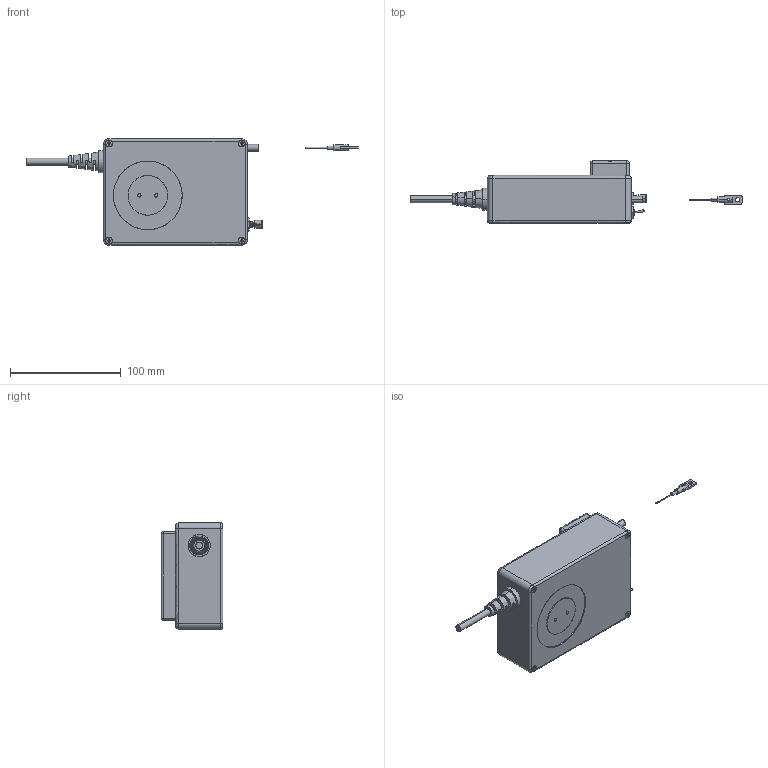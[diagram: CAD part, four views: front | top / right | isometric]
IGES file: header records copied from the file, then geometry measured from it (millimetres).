
Start section: SolidWorks IGES file using analytic representation for surfaces
Bounding box: 300.04 x 56 x 96 mm (x, y, z)
Surface area: 78722.1 mm2 (no closed solid volume)
Topology: 0 solids, 0 shells, 913 faces, 10298 edges, 10295 vertices
Faces by surface type: revolution 462, bspline 451
